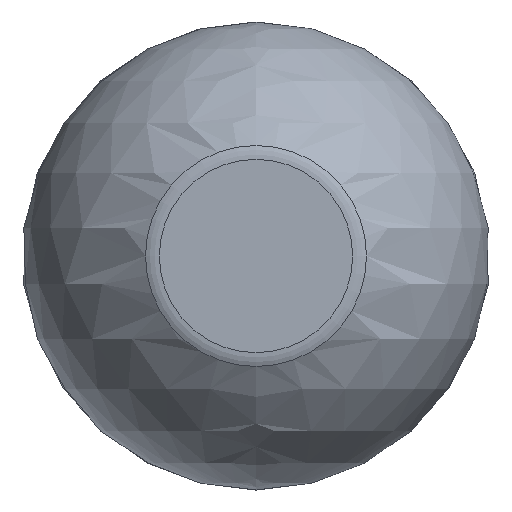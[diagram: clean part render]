
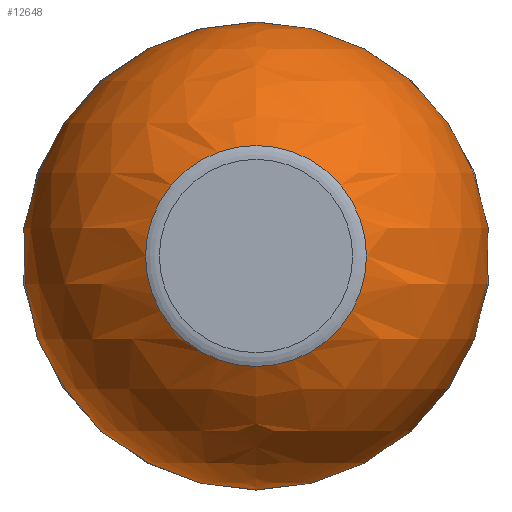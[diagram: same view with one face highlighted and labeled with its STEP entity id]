
A CAD part, left-side view. The second image highlights one B-rep face of the part: STEP entity #12648.
In plain terms, the highlighted spherical face has radius 6.09 mm.
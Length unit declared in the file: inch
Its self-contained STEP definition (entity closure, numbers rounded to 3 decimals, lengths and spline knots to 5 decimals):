
#3325=FACE_BOUND('',#4137,.T.);
#3402=SPHERICAL_SURFACE('',#13463,0.23975);
#3406=FACE_OUTER_BOUND('',#4136,.T.);
#4136=EDGE_LOOP('',(#8733,#8734,#8735,#8736,#8737,#8738));
#4137=EDGE_LOOP('',(#8739));
#4942=CIRCLE('',#13459,0.11325);
#4943=CIRCLE('',#13460,0.11325);
#4946=CIRCLE('',#13464,0.23975);
#4947=CIRCLE('',#13465,0.23975);
#4948=CIRCLE('',#13466,0.13232);
#5467=VERTEX_POINT('',#17832);
#5468=VERTEX_POINT('',#17833);
#5470=VERTEX_POINT('',#17840);
#5471=VERTEX_POINT('',#17842);
#5472=VERTEX_POINT('',#17844);
#6774=EDGE_CURVE('',#5467,#5468,#4942,.T.);
#6775=EDGE_CURVE('',#5468,#5467,#4943,.T.);
#6778=EDGE_CURVE('',#5470,#5467,#4946,.T.);
#6779=EDGE_CURVE('',#5468,#5471,#4947,.T.);
#6780=EDGE_CURVE('',#5472,#5472,#4948,.T.);
#8733=ORIENTED_EDGE('',*,*,#6774,.F.);
#8734=ORIENTED_EDGE('',*,*,#6778,.F.);
#8735=ORIENTED_EDGE('',*,*,#6778,.T.);
#8736=ORIENTED_EDGE('',*,*,#6775,.F.);
#8737=ORIENTED_EDGE('',*,*,#6779,.T.);
#8738=ORIENTED_EDGE('',*,*,#6779,.F.);
#8739=ORIENTED_EDGE('',*,*,#6780,.F.);
#12648=ADVANCED_FACE('',(#3406,#3325),#3402,.T.);
#13459=AXIS2_PLACEMENT_3D('',#17834,#14556,#14557);
#13460=AXIS2_PLACEMENT_3D('',#17835,#14558,#14559);
#13463=AXIS2_PLACEMENT_3D('',#17839,#14564,#14565);
#13464=AXIS2_PLACEMENT_3D('',#17841,#14566,#14567);
#13465=AXIS2_PLACEMENT_3D('',#17843,#14568,#14569);
#13466=AXIS2_PLACEMENT_3D('',#17845,#14570,#14571);
#14556=DIRECTION('center_axis',(-1.,0.,0.));
#14557=DIRECTION('ref_axis',(0.,-1.,0.));
#14558=DIRECTION('center_axis',(-1.,0.,0.));
#14559=DIRECTION('ref_axis',(0.,-1.,0.));
#14564=DIRECTION('center_axis',(0.,0.,1.));
#14565=DIRECTION('ref_axis',(1.,0.,0.));
#14566=DIRECTION('center_axis',(0.,-1.,0.));
#14567=DIRECTION('ref_axis',(-1.,0.,0.));
#14568=DIRECTION('center_axis',(0.,-1.,0.));
#14569=DIRECTION('ref_axis',(-1.,0.,0.));
#14570=DIRECTION('center_axis',(1.,0.,0.));
#14571=DIRECTION('ref_axis',(0.,0.,-1.));
#17832=CARTESIAN_POINT('',(-0.21132,0.,0.11325));
#17833=CARTESIAN_POINT('',(-0.21132,0.,-0.11325));
#17834=CARTESIAN_POINT('Origin',(-0.21132,0.,0.));
#17835=CARTESIAN_POINT('Origin',(-0.21132,0.,0.));
#17839=CARTESIAN_POINT('Origin',(0.,0.,0.));
#17840=CARTESIAN_POINT('',(0.,0.,0.23975));
#17841=CARTESIAN_POINT('Origin',(0.,0.,0.));
#17842=CARTESIAN_POINT('',(0.,0.,-0.23975));
#17843=CARTESIAN_POINT('Origin',(0.,0.,0.));
#17844=CARTESIAN_POINT('',(0.19993,0.13232,0.));
#17845=CARTESIAN_POINT('Origin',(0.19993,0.,0.));
